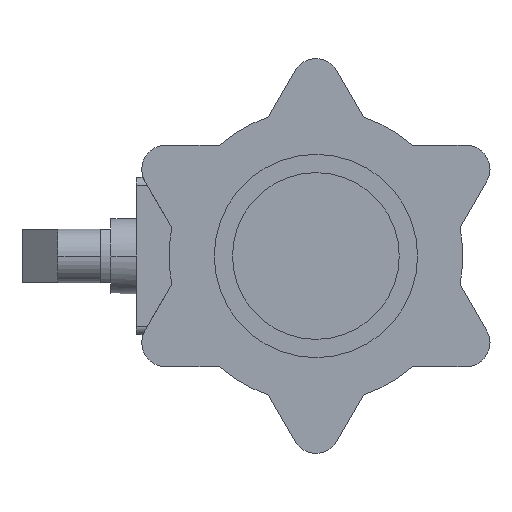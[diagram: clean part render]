
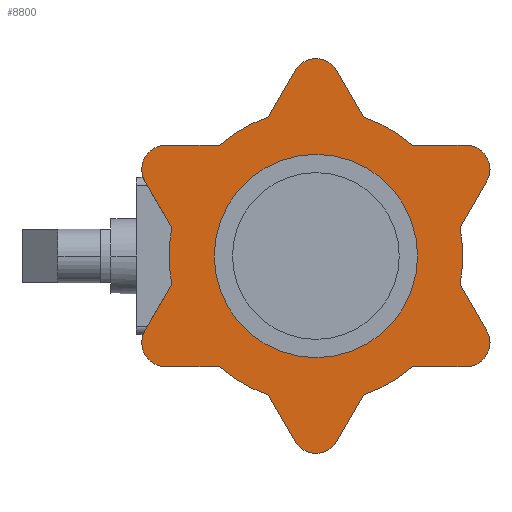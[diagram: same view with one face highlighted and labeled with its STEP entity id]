
A CAD part, left-side view. The second image highlights one B-rep face of the part: STEP entity #8800.
In plain terms, the highlighted planar face has unit normal (-1, 0, 0) as drawn and (0, -1, 0) by its records, which use the part's own axes.
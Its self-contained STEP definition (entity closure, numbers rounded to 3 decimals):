
#200=CARTESIAN_POINT('',(84.375,-135.5,16.641));
#210=VERTEX_POINT('',#200);
#240=CARTESIAN_POINT('',(74.767,-135.5,0.));
#250=DIRECTION('',(0.5,0.,0.866));
#260=VECTOR('',#250,1.);
#270=LINE('',#240,#260);
#280=CARTESIAN_POINT('',(100.026,-135.5,43.75));
#290=VERTEX_POINT('',#280);
#300=EDGE_CURVE('',#210,#290,#270,.T.);
#600=CARTESIAN_POINT('',(27.776,-135.5,81.391));
#610=VERTEX_POINT('',#600);
#640=CARTESIAN_POINT('',(74.767,-135.5,0.));
#650=DIRECTION('',(-0.5,0.,0.866));
#660=VECTOR('',#650,1.);
#670=LINE('',#640,#660);
#680=CARTESIAN_POINT('',(12.124,-135.5,108.5));
#690=VERTEX_POINT('',#680);
#700=EDGE_CURVE('',#610,#690,#670,.T.);
#1090=CARTESIAN_POINT('',(-100.026,-135.5,
43.75));
#1100=VERTEX_POINT('',#1090);
#1130=CARTESIAN_POINT('',(-74.767,-135.5,0.));
#1140=DIRECTION('',(0.5,0.,
-0.866));
#1150=VECTOR('',#1140,1.);
#1160=LINE('',#1130,#1150);
#1170=CARTESIAN_POINT('',(-84.375,-135.5,
16.641));
#1180=VERTEX_POINT('',#1170);
#1190=EDGE_CURVE('',#1100,#1180,#1160,.T.);
#1910=CARTESIAN_POINT('',(87.902,-135.5,-64.75));
#1920=VERTEX_POINT('',#1910);
#1950=CARTESIAN_POINT('',(87.902,-135.5,-50.75));
#1960=DIRECTION('',(0.,1.,0.));
#1970=DIRECTION('',(0.,0.,1.));
#1980=AXIS2_PLACEMENT_3D('',#1950,#1960,#1970);
#1990=CIRCLE('',#1980,14.);
#2000=CARTESIAN_POINT('',(100.026,-135.5,-43.75));
#2010=VERTEX_POINT('',#2000);
#2020=EDGE_CURVE('',#2010,#1920,#1990,.T.);
#2300=CARTESIAN_POINT('',(56.599,-135.5,-64.75));
#2310=VERTEX_POINT('',#2300);
#2340=CARTESIAN_POINT('',(0.,-135.5,-64.75));
#2350=DIRECTION('',(1.,0.,0.));
#2360=VECTOR('',#2350,1.);
#2370=LINE('',#2340,#2360);
#2380=EDGE_CURVE('',#2310,#1920,#2370,.T.);
#3740=CARTESIAN_POINT('',(-12.124,-135.5,108.5));
#3750=VERTEX_POINT('',#3740);
#3780=CARTESIAN_POINT('',(-74.767,-135.5,0.));
#3790=DIRECTION('',(-0.5,0.,-0.866));
#3800=VECTOR('',#3790,1.);
#3810=LINE('',#3780,#3800);
#3820=CARTESIAN_POINT('',(-27.776,-135.5,81.391));
#3830=VERTEX_POINT('',#3820);
#3840=EDGE_CURVE('',#3750,#3830,#3810,.T.);
#4100=CARTESIAN_POINT('',(87.902,-135.5,50.75));
#4110=DIRECTION('',(0.,-1.,0.));
#4120=DIRECTION('',(0.,0.,-1.));
#4130=AXIS2_PLACEMENT_3D('',#4100,#4110,#4120);
#4140=CIRCLE('',#4130,14.);
#4150=CARTESIAN_POINT('',(87.902,-135.5,64.75));
#4160=VERTEX_POINT('',#4150);
#4170=EDGE_CURVE('',#290,#4160,#4140,.T.);
#4770=CARTESIAN_POINT('',(0.,-135.5,101.5));
#4780=DIRECTION('',(0.,-1.,0.));
#4790=DIRECTION('',(0.,0.,-1.));
#4800=AXIS2_PLACEMENT_3D('',#4770,#4780,#4790);
#4810=CIRCLE('',#4800,14.);
#4820=EDGE_CURVE('',#690,#3750,#4810,.T.);
#5390=CARTESIAN_POINT('',(0.,-135.5,64.75));
#5400=DIRECTION('',(-1.,0.,0.));
#5410=VECTOR('',#5400,1.);
#5420=LINE('',#5390,#5410);
#5430=CARTESIAN_POINT('',(56.599,-135.5,64.75));
#5440=VERTEX_POINT('',#5430);
#5450=EDGE_CURVE('',#4160,#5440,#5420,.T.);
#6280=CARTESIAN_POINT('',(-100.026,-135.5,-43.75));
#6290=VERTEX_POINT('',#6280);
#6320=CARTESIAN_POINT('',(-87.902,-135.5,-50.75));
#6330=DIRECTION('',(0.,-1.,0.));
#6340=DIRECTION('',(0.,0.,-1.));
#6350=AXIS2_PLACEMENT_3D('',#6320,#6330,#6340);
#6360=CIRCLE('',#6350,14.);
#6370=CARTESIAN_POINT('',(-87.902,-135.5,-64.75));
#6380=VERTEX_POINT('',#6370);
#6390=EDGE_CURVE('',#6290,#6380,#6360,.T.);
#6550=CARTESIAN_POINT('',(-74.767,-135.5,0.));
#6560=DIRECTION('',(-0.5,0.,
-0.866));
#6570=VECTOR('',#6560,1.);
#6580=LINE('',#6550,#6570);
#6590=CARTESIAN_POINT('',(-84.375,-135.5,
-16.641));
#6600=VERTEX_POINT('',#6590);
#6610=EDGE_CURVE('',#6600,#6290,#6580,.T.);
#7040=CARTESIAN_POINT('',(0.,-135.5,-64.75));
#7050=DIRECTION('',(1.,0.,0.));
#7060=VECTOR('',#7050,1.);
#7070=LINE('',#7040,#7060);
#7080=CARTESIAN_POINT('',(-56.599,-135.5,
-64.75));
#7090=VERTEX_POINT('',#7080);
#7100=EDGE_CURVE('',#6380,#7090,#7070,.T.);
#7400=CARTESIAN_POINT('',(-56.599,-135.5,64.75));
#7410=VERTEX_POINT('',#7400);
#7440=CARTESIAN_POINT('',(0.,-135.5,64.75));
#7450=DIRECTION('',(-1.,0.,0.));
#7460=VECTOR('',#7450,1.);
#7470=LINE('',#7440,#7460);
#7480=CARTESIAN_POINT('',(-87.902,-135.5,64.75));
#7490=VERTEX_POINT('',#7480);
#7500=EDGE_CURVE('',#7410,#7490,#7470,.T.);
#7610=CARTESIAN_POINT('',(0.,-135.5,
-115.5));
#7620=DIRECTION('',(0.,1.,0.));
#7630=DIRECTION('',(0.,0.,1.));
#7640=AXIS2_PLACEMENT_3D('',#7610,#7620,#7630);
#7650=PLANE('',#7640);
#7660=CARTESIAN_POINT('',(0.,-135.5,0.));
#7670=DIRECTION('',(0.,-1.,0.));
#7680=DIRECTION('',(0.,0.,-1.));
#7690=AXIS2_PLACEMENT_3D('',#7660,#7670,#7680);
#7700=CIRCLE('',#7690,86.);
#7710=EDGE_CURVE('',#3830,#7410,#7700,.T.);
#7720=ORIENTED_EDGE('',*,*,#7710,.T.);
#7730=ORIENTED_EDGE('',*,*,#3840,.T.);
#7740=ORIENTED_EDGE('',*,*,#4820,.T.);
#7750=ORIENTED_EDGE('',*,*,#700,.T.);
#7760=CARTESIAN_POINT('',(0.,-135.5,0.));
#7770=DIRECTION('',(0.,-1.,0.));
#7780=DIRECTION('',(0.,0.,-1.));
#7790=AXIS2_PLACEMENT_3D('',#7760,#7770,#7780);
#7800=CIRCLE('',#7790,86.);
#7810=EDGE_CURVE('',#5440,#610,#7800,.T.);
#7820=ORIENTED_EDGE('',*,*,#7810,.T.);
#7830=ORIENTED_EDGE('',*,*,#5450,.T.);
#7840=ORIENTED_EDGE('',*,*,#4170,.T.);
#7850=ORIENTED_EDGE('',*,*,#300,.T.);
#7860=CARTESIAN_POINT('',(0.,-135.5,0.));
#7870=DIRECTION('',(0.,-1.,0.));
#7880=DIRECTION('',(0.,0.,-1.));
#7890=AXIS2_PLACEMENT_3D('',#7860,#7870,#7880);
#7900=CIRCLE('',#7890,86.);
#7910=CARTESIAN_POINT('',(84.375,-135.5,-16.641));
#7920=VERTEX_POINT('',#7910);
#7930=EDGE_CURVE('',#7920,#210,#7900,.T.);
#7940=ORIENTED_EDGE('',*,*,#7930,.T.);
#7950=CARTESIAN_POINT('',(74.767,-135.5,0.));
#7960=DIRECTION('',(-0.5,0.,0.866));
#7970=VECTOR('',#7960,1.);
#7980=LINE('',#7950,#7970);
#7990=EDGE_CURVE('',#2010,#7920,#7980,.T.);
#8000=ORIENTED_EDGE('',*,*,#7990,.T.);
#8010=ORIENTED_EDGE('',*,*,#2020,.F.);
#8020=ORIENTED_EDGE('',*,*,#2380,.T.);
#8030=CARTESIAN_POINT('',(0.,-135.5,0.));
#8040=DIRECTION('',(0.,-1.,0.));
#8050=DIRECTION('',(0.,0.,-1.));
#8060=AXIS2_PLACEMENT_3D('',#8030,#8040,#8050);
#8070=CIRCLE('',#8060,86.);
#8080=CARTESIAN_POINT('',(27.776,-135.5,-81.391));
#8090=VERTEX_POINT('',#8080);
#8100=EDGE_CURVE('',#8090,#2310,#8070,.T.);
#8110=ORIENTED_EDGE('',*,*,#8100,.T.);
#8120=CARTESIAN_POINT('',(74.767,-135.5,0.));
#8130=DIRECTION('',(0.5,0.,0.866));
#8140=VECTOR('',#8130,1.);
#8150=LINE('',#8120,#8140);
#8160=CARTESIAN_POINT('',(12.124,-135.5,-108.5));
#8170=VERTEX_POINT('',#8160);
#8180=EDGE_CURVE('',#8170,#8090,#8150,.T.);
#8190=ORIENTED_EDGE('',*,*,#8180,.T.);
#8200=CARTESIAN_POINT('',(0.,-135.5,-101.5
));
#8210=DIRECTION('',(0.,1.,0.));
#8220=DIRECTION('',(0.,0.,1.));
#8230=AXIS2_PLACEMENT_3D('',#8200,#8210,#8220);
#8240=CIRCLE('',#8230,14.);
#8250=CARTESIAN_POINT('',(-12.124,-135.5,-108.5));
#8260=VERTEX_POINT('',#8250);
#8270=EDGE_CURVE('',#8170,#8260,#8240,.T.);
#8280=ORIENTED_EDGE('',*,*,#8270,.F.);
#8290=CARTESIAN_POINT('',(-74.767,-135.5,0.));
#8300=DIRECTION('',(0.5,0.,-0.866));
#8310=VECTOR('',#8300,1.);
#8320=LINE('',#8290,#8310);
#8330=CARTESIAN_POINT('',(-27.776,-135.5,
-81.391));
#8340=VERTEX_POINT('',#8330);
#8350=EDGE_CURVE('',#8340,#8260,#8320,.T.);
#8360=ORIENTED_EDGE('',*,*,#8350,.T.);
#8370=CARTESIAN_POINT('',(0.,-135.5,
0.));
#8380=DIRECTION('',(0.,1.,0.));
#8390=DIRECTION('',(0.,0.,1.));
#8400=AXIS2_PLACEMENT_3D('',#8370,#8380,#8390);
#8410=CIRCLE('',#8400,86.);
#8420=EDGE_CURVE('',#8340,#7090,#8410,.T.);
#8430=ORIENTED_EDGE('',*,*,#8420,.F.);
#8440=ORIENTED_EDGE('',*,*,#7100,.T.);
#8450=ORIENTED_EDGE('',*,*,#6390,.T.);
#8460=ORIENTED_EDGE('',*,*,#6610,.T.);
#8470=CARTESIAN_POINT('',(0.,-135.5,0.));
#8480=DIRECTION('',(0.,-1.,0.));
#8490=DIRECTION('',(0.,0.,-1.));
#8500=AXIS2_PLACEMENT_3D('',#8470,#8480,#8490);
#8510=CIRCLE('',#8500,86.);
#8520=EDGE_CURVE('',#1180,#6600,#8510,.T.);
#8530=ORIENTED_EDGE('',*,*,#8520,.T.);
#8540=ORIENTED_EDGE('',*,*,#1190,.T.);
#8550=CARTESIAN_POINT('',(-87.902,-135.5,50.75));
#8560=DIRECTION('',(0.,-1.,0.));
#8570=DIRECTION('',(0.,0.,-1.));
#8580=AXIS2_PLACEMENT_3D('',#8550,#8560,#8570);
#8590=CIRCLE('',#8580,14.);
#8600=EDGE_CURVE('',#7490,#1100,#8590,.T.);
#8610=ORIENTED_EDGE('',*,*,#8600,.T.);
#8620=ORIENTED_EDGE('',*,*,#7500,.T.);
#8630=EDGE_LOOP('',(#8620,#8610,#8540,#8530,#8460,#8450,#8440,#8430,
#8360,#8280,#8190,#8110,#8020,#8010,#8000,#7940,#7850,#7840,#7830,#7820,
#7750,#7740,#7730,#7720));
#8640=FACE_OUTER_BOUND('',#8630,.T.);
#8650=CARTESIAN_POINT('',(0.,-135.5,
0.));
#8660=DIRECTION('',(0.,-1.,0.));
#8670=DIRECTION('',(0.,0.,1.));
#8680=AXIS2_PLACEMENT_3D('',#8650,#8660,#8670);
#8690=CIRCLE('',#8680,50.8);
#8700=CARTESIAN_POINT('',(0.,-135.5,50.8));
#8710=VERTEX_POINT('',#8700);
#8720=CARTESIAN_POINT('',(0.,-135.5,-50.8))
;
#8730=VERTEX_POINT('',#8720);
#8740=EDGE_CURVE('',#8710,#8730,#8690,.T.);
#8750=ORIENTED_EDGE('',*,*,#8740,.F.);
#8760=EDGE_CURVE('',#8730,#8710,#8690,.T.);
#8770=ORIENTED_EDGE('',*,*,#8760,.F.);
#8780=EDGE_LOOP('',(#8770,#8750));
#8790=FACE_BOUND('',#8780,.T.);
#8800=ADVANCED_FACE('',(#8640,#8790),#7650,.F.);
